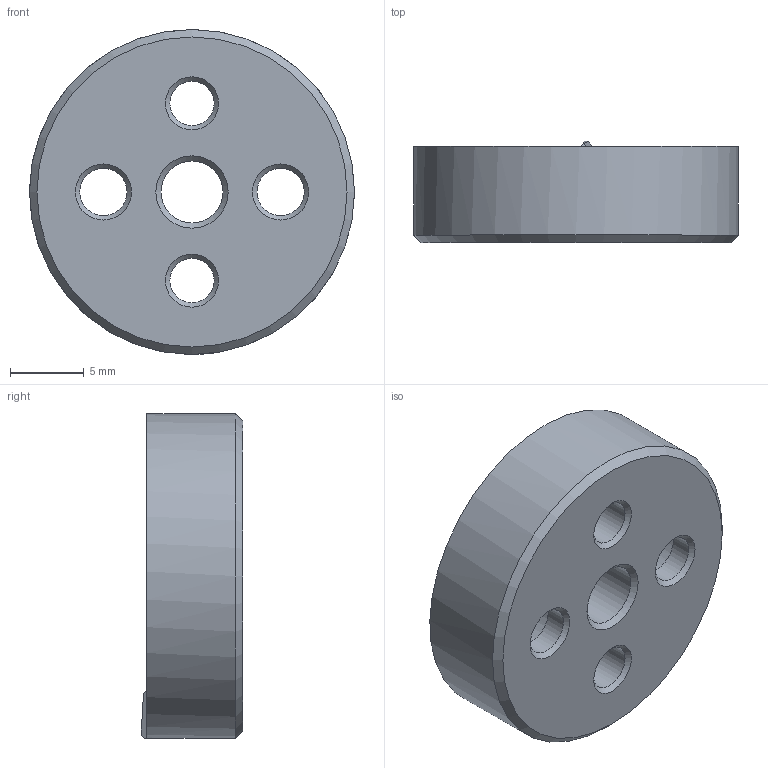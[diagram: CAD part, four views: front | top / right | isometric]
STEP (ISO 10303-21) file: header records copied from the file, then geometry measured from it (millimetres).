
FILE_DESCRIPTION( ( 'STEP AP203' ), '1' );
FILE_NAME( 'C:/Temp/Ganter_Step_05_03_2020/data/3_2/gn187_4/gn187_4_st/Serrated locking plate GN 187.4-22-48-B-ST.stp', '2020-03-13T05:25:35', ( 'License CC BY-ND 4.0' ), ( 'CADENAS' ), ' ', 'PARTsolutions', ' ' );
FILE_SCHEMA( ( 'CONFIG_CONTROL_DESIGN' ) );
Length unit declared in the file: millimetre
Products named in the file (1): _Serrated locking plate GN 187.4-22-48-B-ST
Bounding box: 22 x 6.89 x 22 mm (x, y, z)
Volume: 1865.6 mm3; surface area: 1496.6 mm2
Topology: 1 solids, 1 shells, 33 faces, 85 edges, 54 vertices
Faces by surface type: cone 12, cylinder 12, plane 9
Full cylindrical faces by diameter (mm): 3 x2, 3.2 x2, 4.2 x1, 6 x2, 22 x1
Entity records: 1044 total; most frequent: CARTESIAN_POINT 250, DIRECTION 166, ORIENTED_EDGE 128, AXIS2_PLACEMENT_3D 78, EDGE_CURVE 64, EDGE_LOOP 60, VERTEX_POINT 50, FACE_OUTER_BOUND 41
